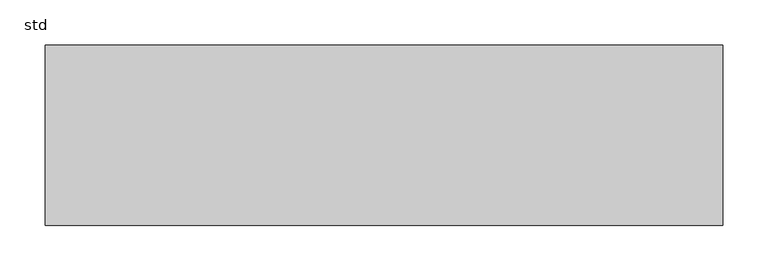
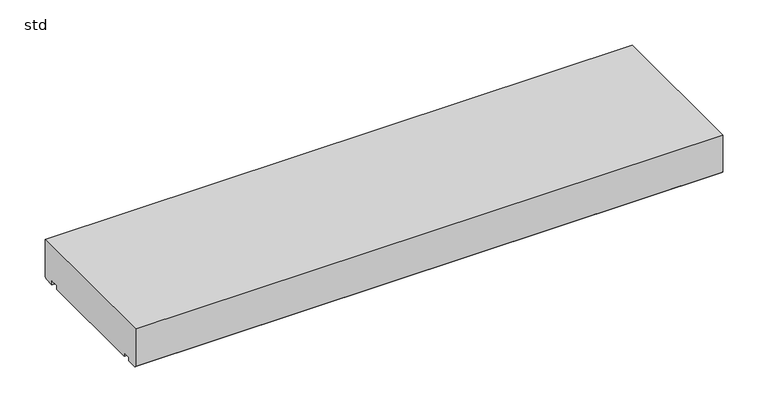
"""IFC4 building model written with IfcOpenShell, lengths in millimetres: proxy geometry, 400_35_NS_vlak_weerszijde_waterhol : std."""

import ifcopenshell
import ifcopenshell.guid

model = None  # the IFC model being written
_history = None  # IfcOwnerHistory: only IFC2X3 demands one
_inside = {}  # id of a spatial element -> (the spatial element, [elements in it])
_under = {}  # id of a project, library or spatial element -> (it, [spatial elements below it])
_declared = {}  # id of a project -> (the project, [libraries it declares])
_typed = {}  # id of a type object -> (the type object, [elements of that type])
_made_of = {}  # id of a material, layer set ... -> (it, [elements and type objects made of it])


def new_model(schema):
    """Start an empty IFC model of exactly this schema.

    Asked for "IFC4X3", IfcOpenShell would pick the latest addendum, in which some entities
    have other attributes; the version numbers below select the first issue.
    IFC2X3 requires an IfcOwnerHistory on every rooted entity: one is made here for all.
    """
    global model, _history
    if schema == "IFC4X3":
        model = ifcopenshell.file(schema_version=(4, 3, 0, 0))
    else:
        model = ifcopenshell.file(schema=schema)
    _inside.clear()
    _under.clear()
    _declared.clear()
    _typed.clear()
    _made_of.clear()
    _history = None
    if model.schema == "IFC2X3":
        org = make("IfcOrganization", Name="unknown")
        user = make(
            "IfcPersonAndOrganization",
            ThePerson=make("IfcPerson", FamilyName="unknown"),
            TheOrganization=org,
        )
        app = make(
            "IfcApplication",
            ApplicationDeveloper=org,
            Version="unknown",
            ApplicationFullName="unknown",
            ApplicationIdentifier="unknown",
        )
        _history = make(
            "IfcOwnerHistory",
            OwningUser=user,
            OwningApplication=app,
            ChangeAction="ADDED",
            CreationDate=0,
        )
    return model


def make(cls, **values):
    """One entity of the class cls with the attributes given. An attribute that is None is left unset."""
    return model.create_entity(
        cls, **{name: value for name, value in values.items() if value is not None}
    )


def rooted(cls, **values):
    """An entity with a GlobalId (a new one), such as an element, a storey or a relation."""
    return make(cls, GlobalId=ifcopenshell.guid.new(), OwnerHistory=_history, **values)


def si_unit(unit_type, name, prefix=None):
    """IfcSIUnit, for example si_unit("LENGTHUNIT", "METRE", prefix="MILLI")."""
    return make("IfcSIUnit", UnitType=unit_type, Prefix=prefix, Name=name)


def assignment(units):
    """IfcUnitAssignment: the units of a project."""
    return None if units is None else make("IfcUnitAssignment", Units=units)


def point(xyz):
    """IfcCartesianPoint."""
    return None if xyz is None else make("IfcCartesianPoint", Coordinates=xyz)


def direction(xyz):
    """IfcDirection."""
    return None if xyz is None else make("IfcDirection", DirectionRatios=xyz)


def frame(location, z_axis=None, x_axis=None):
    """IfcAxis2Placement3D, a coordinate frame: its origin and axes. An axis left out is left unset."""
    return make(
        "IfcAxis2Placement3D",
        Location=point(location),
        Axis=direction(z_axis),
        RefDirection=direction(x_axis),
    )


def origin():
    """The frame at (0, 0, 0) with its axes left unset."""
    return frame((0.0, 0.0, 0.0))


def place(relative_to, where):
    """IfcLocalPlacement: puts the frame where relative to a parent placement (None: the world)."""
    return make(
        "IfcLocalPlacement", PlacementRelTo=relative_to, RelativePlacement=where
    )


def context(
    kind, dimensions, precision=None, world=None, true_north=None, identifier=None
):
    """IfcGeometricRepresentationContext, for example the 3D "Model" context."""
    return make(
        "IfcGeometricRepresentationContext",
        ContextIdentifier=identifier,
        ContextType=kind,
        CoordinateSpaceDimension=dimensions,
        Precision=precision,
        WorldCoordinateSystem=world,
        TrueNorth=true_north,
    )


def project(units=None, contexts=None):
    """IfcProject with its units and contexts."""
    return rooted(
        "IfcProject",
        Name="project",
        RepresentationContexts=contexts,
        UnitsInContext=assignment(units),
    )


def spatial(cls, under=None, at=None, **own):
    """A site, building, storey or space (cls), placed at a placement, below another one or the project."""
    s = rooted(cls, ObjectPlacement=at, **own)
    if under is not None:
        _under.setdefault(under.id(), (under, []))[1].append(s)
    return s


def polyline(points):
    """IfcPolyline through the points."""
    return make("IfcPolyline", Points=[point(p) for p in points])


def outline(outer, holes=None, kind="AREA"):
    """IfcArbitraryClosedProfileDef: a profile drawn as a closed curve; with holes, ...WithVoids."""
    if holes is None:
        return make("IfcArbitraryClosedProfileDef", ProfileType=kind, OuterCurve=outer)
    return make(
        "IfcArbitraryProfileDefWithVoids",
        ProfileType=kind,
        OuterCurve=outer,
        InnerCurves=holes,
    )


def extrude(swept, where, along, depth):
    """IfcExtrudedAreaSolid: the profile swept, set in the frame where, extruded along a direction by depth."""
    return make(
        "IfcExtrudedAreaSolid",
        SweptArea=swept,
        Position=where,
        ExtrudedDirection=direction(along),
        Depth=depth,
    )


def shape(context_of_items, identifier, shape_type, items):
    """IfcShapeRepresentation: the items that make up one representation, for example the "Body"."""
    return make(
        "IfcShapeRepresentation",
        ContextOfItems=context_of_items,
        RepresentationIdentifier=identifier,
        RepresentationType=shape_type,
        Items=items,
    )


def source(mapping_origin, context_of_items, identifier, shape_type, items):
    """IfcRepresentationMap: a shape defined once, which mapped items show again and again."""
    return make(
        "IfcRepresentationMap",
        MappingOrigin=mapping_origin,
        MappedRepresentation=shape(context_of_items, identifier, shape_type, items),
    )


def transform(
    local_origin,
    x_axis=None,
    y_axis=None,
    z_axis=None,
    scale=None,
    scale2=None,
    scale3=None,
    uniform=True,
):
    """IfcCartesianTransformationOperator3D, or its non-uniform kind. x_axis, y_axis, z_axis: its Axis1, 2, 3."""
    if uniform:
        return make(
            "IfcCartesianTransformationOperator3D",
            Axis1=direction(x_axis),
            Axis2=direction(y_axis),
            LocalOrigin=point(local_origin),
            Scale=scale,
            Axis3=direction(z_axis),
        )
    return make(
        "IfcCartesianTransformationOperator3DnonUniform",
        Axis1=direction(x_axis),
        Axis2=direction(y_axis),
        LocalOrigin=point(local_origin),
        Scale=scale,
        Axis3=direction(z_axis),
        Scale2=scale2,
        Scale3=scale3,
    )


def mapped(mapping_source, mapping_target):
    """IfcMappedItem: shows the shape of a source again, moved by a transform."""
    return make(
        "IfcMappedItem", MappingSource=mapping_source, MappingTarget=mapping_target
    )


def made_of(thing, what):
    """Note that an element or type object is made of a material, layer set ...; save() writes the relation."""
    if what is not None:
        _made_of.setdefault(what.id(), (what, []))[1].append(thing)
    return thing


def element(
    cls,
    number,
    at=None,
    inside=None,
    cuts=None,
    type_object=None,
    material=None,
    context=None,
    identifier="Body",
    shape_type=None,
    held_by="IfcProductDefinitionShape",
    body=None,
    shapes=None,
    **own,
):
    """One element of the class cls, such as IfcWall. Its Tag is "e" and its number.

    at: its placement. inside: the storey or other place that contains it. cuts: it is an
    opening in that element (IfcRelVoidsElement). A single representation is given by context,
    identifier, shape_type and body (its items); several are given by shapes. held_by: the class
    of the entity that holds the representations. save() writes the other relations.
    """
    e = rooted(cls, Tag="e%d" % number, ObjectPlacement=at, **own)
    if body is not None:
        shapes = [shape(context, identifier, shape_type, body)]
    if shapes is not None:
        e.Representation = make(held_by, Representations=shapes)
    if inside is not None:
        _inside.setdefault(inside.id(), (inside, []))[1].append(e)
    if cuts is not None:
        rooted(
            "IfcRelVoidsElement", RelatingBuildingElement=cuts, RelatedOpeningElement=e
        )
    if type_object is not None:
        _typed.setdefault(type_object.id(), (type_object, []))[1].append(e)
    return made_of(e, material)


def aggregate(whole, parts):
    """IfcRelAggregates: a whole, such as a stair, and the parts it consists of."""
    return rooted("IfcRelAggregates", RelatingObject=whole, RelatedObjects=parts)


def save(model, path):
    """Write the relations noted so far, then the file.

    IfcRelAggregates (storeys below a building ...), IfcRelContainedInSpatialStructure (elements
    in a storey), IfcRelDefinesByType, IfcRelAssociatesMaterial and IfcRelDeclares: one each for
    every whole, place, type object, material and project.
    """
    for whole, parts in _under.values():
        aggregate(whole, parts)
    for where, things in _inside.values():
        rooted(
            "IfcRelContainedInSpatialStructure",
            RelatedElements=things,
            RelatingStructure=where,
        )
    for kind, things in _typed.values():
        rooted("IfcRelDefinesByType", RelatedObjects=things, RelatingType=kind)
    for what, things in _made_of.values():
        rooted("IfcRelAssociatesMaterial", RelatedObjects=things, RelatingMaterial=what)
    for by, libraries in _declared.values():
        rooted("IfcRelDeclares", RelatingContext=by, RelatedDefinitions=libraries)
    model.write(path)


def std_509db9f1(model_context):
    return source(origin(), model_context, "Body", "SweptSolid", [
        extrude(outline(polyline([(200.0, 2.0), (198.0, 0.0), (185.0, 0.0), (185.0, 5.0), (175.0, 5.0), (175.0, 0.0), (25.0, 0.0), (25.0, 5.0), (15.0, 5.0), (15.0, 0.0), (2.0, 0.0), (0.0, 2.0), (0.0, 52.2549301), (200.0, 52.2549301), (200.0, 2.0)])), frame((-375.0, 0.0, 0.0), z_axis=(1.0, 0.0, 0.0), x_axis=(0.0, 1.0, 0.0)), (0.0, 0.0, 1.0), 750.0),
    ])


if __name__ == "__main__":
    model = new_model("IFC4")
    model_context = context("Model", 3, world=origin())
    ifc_project = project(units=[si_unit("LENGTHUNIT", "METRE", prefix="MILLI")], contexts=[model_context])
    site = spatial("IfcSite", under=ifc_project)
    building = spatial("IfcBuilding", under=site)
    placement = place(None, origin())
    std_shape = std_509db9f1(model_context)
    element("IfcBuildingElementProxy", 1, Name="400_35_NS_vlak_weerszijde_waterhol : std", ObjectType="400_35_NS_vlak_weerszijde_waterhol : std", at=placement, inside=building, context=model_context, shape_type="MappedRepresentation", body=[
        mapped(std_shape, transform((0.0, 0.0, 0.0), x_axis=(1.0, 0.0, 0.0), y_axis=(0.0, 1.0, 0.0), z_axis=(0.0, 0.0, 1.0))),
    ])
    save(model, "model.ifc")
